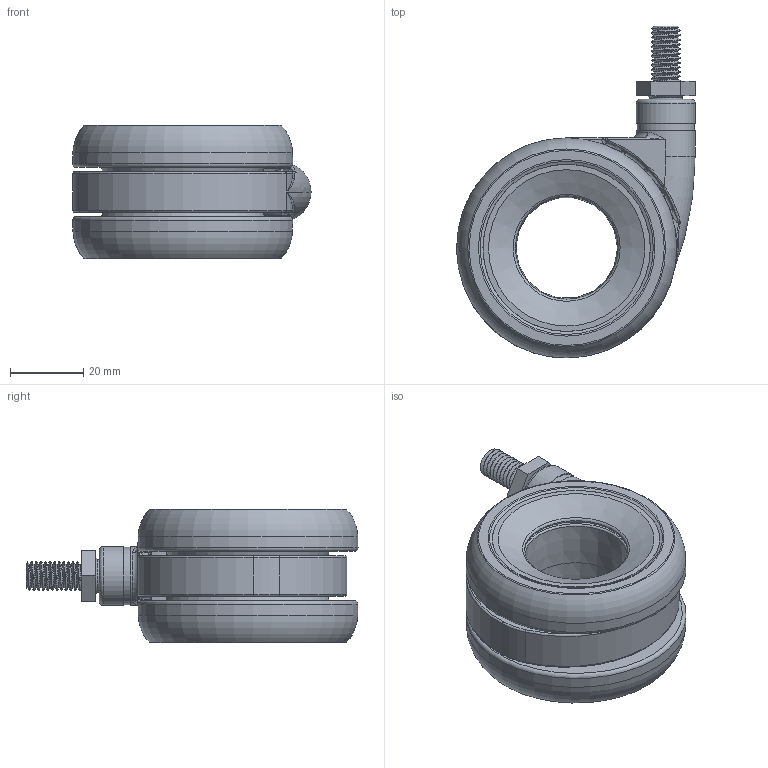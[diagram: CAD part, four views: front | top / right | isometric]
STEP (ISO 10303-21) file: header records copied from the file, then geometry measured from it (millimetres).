
FILE_DESCRIPTION (( 'STEP AP203' ), '1' );
FILE_NAME ('K09U16(M8).STEP', '2025-04-09T05:48:32', ( '' ), ( '' ), 'SwSTEP 2.0', 'SolidWorks 2025', '' );
FILE_SCHEMA (( 'CONFIG_CONTROL_DESIGN' ));
Length unit declared in the file: millimetre
Products named in the file (4): M8縦軸; 本体; TPU車輪; K09U16(M8)
Assembly tree (4 placements, depth 2):
  K09U16(M8)
    本体
    M8縦軸
    TPU車輪  x2
Bounding box: 65.08 x 90.5 x 36.4 mm (x, y, z)
Volume: 72841.7 mm3; surface area: 52761.2 mm2
Topology: 8 solids, 9 shells, 456 faces, 1319 edges, 805 vertices
Faces by surface type: plane 216, cylinder 96, torus 61, cone 46, bspline 33, sphere 4
Full cylindrical faces by diameter (mm): 2.3 x45, 7.7 x1, 9 x2, 9.4 x2, 15.6 x1, 16 x2, 34 x2, 34.95 x1, 35 x1, 36 x4, 36.4 x4, 38.35 x3, 44.15 x3, 46 x2, 46.95 x1, 47 x1, 54.897 x4
Entity records: 15575 total; most frequent: CARTESIAN_POINT 7185, DIRECTION 1626, ORIENTED_EDGE 1528, EDGE_CURVE 764, AXIS2_PLACEMENT_3D 727, EDGE_LOOP 589, VERTEX_POINT 535, FACE_OUTER_BOUND 438
